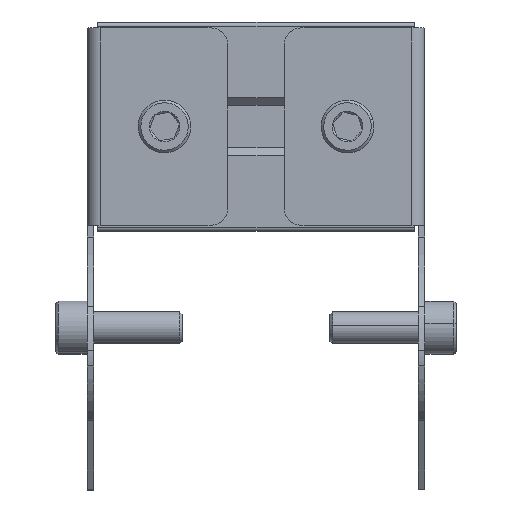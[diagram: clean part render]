
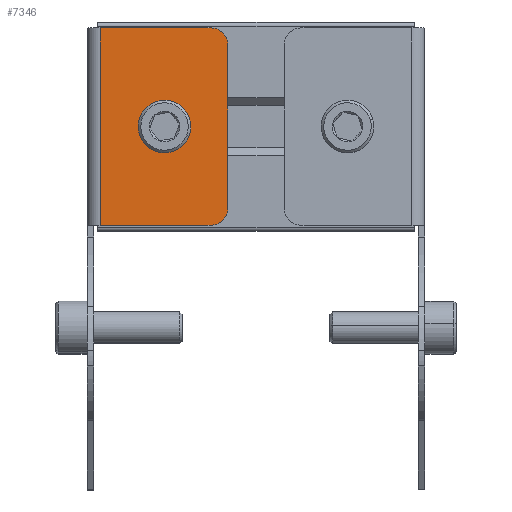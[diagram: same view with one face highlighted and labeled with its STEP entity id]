
A CAD part, top view. The second image highlights one B-rep face of the part: STEP entity #7346.
In plain terms, the highlighted planar face has unit normal (0, 0, 1) as drawn and (1, 0, 0) by its records, which use the part's own axes.
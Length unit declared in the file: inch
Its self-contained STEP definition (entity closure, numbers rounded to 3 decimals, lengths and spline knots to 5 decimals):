
#70 = CARTESIAN_POINT ( 'NONE',  ( 2.6235, 2.47, -1.002 ) ) ;
#100 = CARTESIAN_POINT ( 'NONE',  ( 2.6235, 1.1222, -1.002 ) ) ;
#329 = DIRECTION ( 'NONE',  ( 1., 0., 0. ) ) ;
#363 = VERTEX_POINT ( 'NONE', #1540 ) ;
#380 = DIRECTION ( 'NONE',  ( 1., 0., 0. ) ) ;
#527 = CARTESIAN_POINT ( 'NONE',  ( 2.6235, 1.1222, -0.048 ) ) ;
#563 = EDGE_CURVE ( 'NONE', #616, #1544, #7280, .T. ) ;
#616 = VERTEX_POINT ( 'NONE', #6935 ) ;
#650 = CARTESIAN_POINT ( 'NONE',  ( 2.6235, 1.1222, -0.877 ) ) ;
#726 = EDGE_LOOP ( 'NONE', ( #4460, #1646, #7367, #6444, #2536, #3985 ) ) ;
#1453 = VECTOR ( 'NONE', #5229, 39.37008 ) ;
#1540 = CARTESIAN_POINT ( 'NONE',  ( 2.6235, 1.8586, -0.40372 ) ) ;
#1544 = VERTEX_POINT ( 'NONE', #527 ) ;
#1646 = ORIENTED_EDGE ( 'NONE', *, *, #6662, .T. ) ;
#1662 = EDGE_CURVE ( 'NONE', #616, #7537, #3688, .T. ) ;
#2006 = DIRECTION ( 'NONE',  ( 1., 0., 0. ) ) ;
#2204 = DIRECTION ( 'NONE',  ( 0., 0., -1. ) ) ;
#2212 = LINE ( 'NONE', #7604, #3480 ) ;
#2227 = VECTOR ( 'NONE', #4606, 39.37008 ) ;
#2266 = EDGE_CURVE ( 'NONE', #7796, #6754, #2440, .T. ) ;
#2360 = FACE_BOUND ( 'NONE', #7353, .T. ) ;
#2440 = CIRCLE ( 'NONE', #3852, 0.125 ) ;
#2536 = ORIENTED_EDGE ( 'NONE', *, *, #7851, .F. ) ;
#2653 = CARTESIAN_POINT ( 'NONE',  ( 2.6235, 1.2472, -0.877 ) ) ;
#2794 = CARTESIAN_POINT ( 'NONE',  ( 2.6235, 1.8586, -0.5297 ) ) ;
#3345 = FACE_OUTER_BOUND ( 'NONE', #726, .T. ) ;
#3480 = VECTOR ( 'NONE', #5595, 39.37008 ) ;
#3529 = DIRECTION ( 'NONE',  ( 0., 0., -1. ) ) ;
#3584 = EDGE_CURVE ( 'NONE', #363, #6199, #4992, .T. ) ;
#3688 = LINE ( 'NONE', #3968, #2227 ) ;
#3852 = AXIS2_PLACEMENT_3D ( 'NONE', #2653, #5889, #7078 ) ;
#3968 = CARTESIAN_POINT ( 'NONE',  ( 2.6235, 2.595, -1.002 ) ) ;
#3985 = ORIENTED_EDGE ( 'NONE', *, *, #2266, .T. ) ;
#4084 = VECTOR ( 'NONE', #8247, 39.37008 ) ;
#4144 = DIRECTION ( 'NONE',  ( 0., 0., -1. ) ) ;
#4273 = CARTESIAN_POINT ( 'NONE',  ( 2.6235, 1.2472, -1.002 ) ) ;
#4355 = AXIS2_PLACEMENT_3D ( 'NONE', #4810, #380, #3529 ) ;
#4460 = ORIENTED_EDGE ( 'NONE', *, *, #5054, .F. ) ;
#4463 = CARTESIAN_POINT ( 'NONE',  ( 2.6235, 1.8586, -0.5297 ) ) ;
#4606 = DIRECTION ( 'NONE',  ( 0., 0., -1. ) ) ;
#4783 = CARTESIAN_POINT ( 'NONE',  ( 2.6235, 2.595, -0.877 ) ) ;
#4810 = CARTESIAN_POINT ( 'NONE',  ( 2.6235, 2.47, -0.877 ) ) ;
#4992 = CIRCLE ( 'NONE', #5831, 0.12598 ) ;
#5054 = EDGE_CURVE ( 'NONE', #6946, #6754, #2212, .T. ) ;
#5156 = ORIENTED_EDGE ( 'NONE', *, *, #5770, .F. ) ;
#5229 = DIRECTION ( 'NONE',  ( 0., 0., 1. ) ) ;
#5342 = CIRCLE ( 'NONE', #4355, 0.125 ) ;
#5595 = DIRECTION ( 'NONE',  ( 0., -1., 0. ) ) ;
#5653 = CIRCLE ( 'NONE', #6863, 0.12598 ) ;
#5770 = EDGE_CURVE ( 'NONE', #6199, #363, #5653, .T. ) ;
#5822 = DIRECTION ( 'NONE',  ( 0., 0., -1. ) ) ;
#5831 = AXIS2_PLACEMENT_3D ( 'NONE', #4463, #2006, #5822 ) ;
#5889 = DIRECTION ( 'NONE',  ( 1., 0., 0. ) ) ;
#5899 = DIRECTION ( 'NONE',  ( 1., 0., 0. ) ) ;
#5990 = CARTESIAN_POINT ( 'NONE',  ( 2.6235, 0., 0. ) ) ;
#6143 = CARTESIAN_POINT ( 'NONE',  ( 2.6235, 0., -0.048 ) ) ;
#6199 = VERTEX_POINT ( 'NONE', #6948 ) ;
#6444 = ORIENTED_EDGE ( 'NONE', *, *, #563, .T. ) ;
#6662 = EDGE_CURVE ( 'NONE', #6946, #7537, #5342, .T. ) ;
#6754 = VERTEX_POINT ( 'NONE', #4273 ) ;
#6863 = AXIS2_PLACEMENT_3D ( 'NONE', #2794, #5899, #2204 ) ;
#6935 = CARTESIAN_POINT ( 'NONE',  ( 2.6235, 2.595, -0.048 ) ) ;
#6946 = VERTEX_POINT ( 'NONE', #70 ) ;
#6948 = CARTESIAN_POINT ( 'NONE',  ( 2.6235, 1.8586, -0.65568 ) ) ;
#6955 = ORIENTED_EDGE ( 'NONE', *, *, #3584, .F. ) ;
#7078 = DIRECTION ( 'NONE',  ( 0., 0., -1. ) ) ;
#7149 = AXIS2_PLACEMENT_3D ( 'NONE', #5990, #329, #4144 ) ;
#7215 = PLANE ( 'NONE',  #7149 ) ;
#7280 = LINE ( 'NONE', #6143, #4084 ) ;
#7346 = ADVANCED_FACE ( 'NONE', ( #2360, #3345 ), #7215, .T. ) ;
#7353 = EDGE_LOOP ( 'NONE', ( #5156, #6955 ) ) ;
#7367 = ORIENTED_EDGE ( 'NONE', *, *, #1662, .F. ) ;
#7537 = VERTEX_POINT ( 'NONE', #4783 ) ;
#7604 = CARTESIAN_POINT ( 'NONE',  ( 2.6235, 2.595, -1.002 ) ) ;
#7796 = VERTEX_POINT ( 'NONE', #650 ) ;
#7837 = LINE ( 'NONE', #100, #1453 ) ;
#7851 = EDGE_CURVE ( 'NONE', #7796, #1544, #7837, .T. ) ;
#8247 = DIRECTION ( 'NONE',  ( 0., -1., 0. ) ) ;
